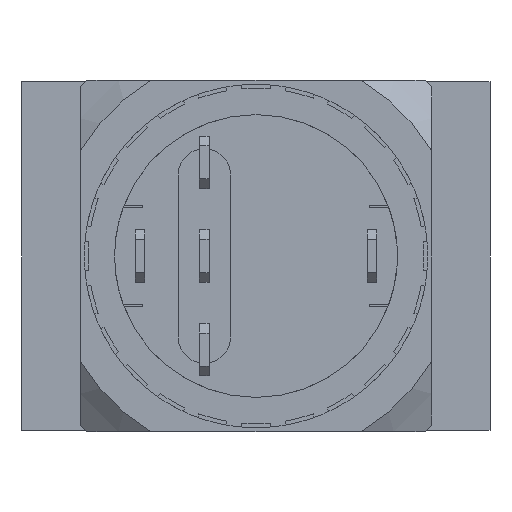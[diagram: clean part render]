
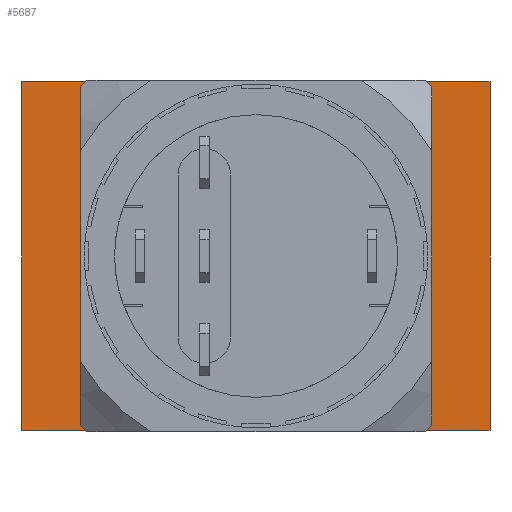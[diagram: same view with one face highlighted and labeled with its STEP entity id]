
A CAD part, front view. The second image highlights one B-rep face of the part: STEP entity #5687.
In plain terms, the highlighted planar face has unit normal (0, -1, 0).
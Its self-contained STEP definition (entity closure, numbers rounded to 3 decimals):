
#143 = CARTESIAN_POINT ( 'NONE',  ( -8.65, 18., 0. ) ) ;
#144 = CARTESIAN_POINT ( 'NONE',  ( 8.65, 18., 0. ) ) ;
#633 = CARTESIAN_POINT ( 'NONE',  ( 12., 18., 8.925 ) ) ;
#634 = CARTESIAN_POINT ( 'NONE',  ( 12., 18., -8.925 ) ) ;
#637 = CARTESIAN_POINT ( 'NONE',  ( -12., 18., -8.925 ) ) ;
#650 = CARTESIAN_POINT ( 'NONE',  ( -12., 18., 8.925 ) ) ;
#2340 = VERTEX_POINT ( 'NONE', #650 ) ;
#2353 = VERTEX_POINT ( 'NONE', #637 ) ;
#2356 = VERTEX_POINT ( 'NONE', #634 ) ;
#2357 = VERTEX_POINT ( 'NONE', #633 ) ;
#2705 = VERTEX_POINT ( 'NONE', #144 ) ;
#2706 = VERTEX_POINT ( 'NONE', #143 ) ;
#2751 = DIRECTION ( 'NONE',  ( 0., 0., -1. ) ) ;
#2752 = DIRECTION ( 'NONE',  ( 0., -1., 0. ) ) ;
#2753 = CARTESIAN_POINT ( 'NONE',  ( 0., 18., 0. ) ) ;
#2754 = PLANE ( 'NONE',  #3347 ) ;
#3053 = DIRECTION ( 'NONE',  ( 0., 1., 0. ) ) ;
#3098 = CARTESIAN_POINT ( 'NONE',  ( 0., 18., 0. ) ) ;
#3148 = DIRECTION ( 'NONE',  ( -1., 0., 0. ) ) ;
#3319 = FACE_OUTER_BOUND ( 'NONE', #6020, .T. ) ;
#3347 = AXIS2_PLACEMENT_3D ( 'NONE', #2753, #2752, #2751 ) ;
#3593 = AXIS2_PLACEMENT_3D ( 'NONE', #3098, #3053, #3148 ) ;
#3605 = VECTOR ( 'NONE', #7316, 1000. ) ;
#3783 = VECTOR ( 'NONE', #7304, 1000. ) ;
#4143 = FACE_BOUND ( 'NONE', #6021, .T. ) ;
#4207 = VECTOR ( 'NONE', #7259, 1000. ) ;
#4225 = VECTOR ( 'NONE', #7283, 1000. ) ;
#4250 = ORIENTED_EDGE ( 'NONE', *, *, #6661, .F. ) ;
#4251 = ORIENTED_EDGE ( 'NONE', *, *, #6680, .F. ) ;
#4252 = ORIENTED_EDGE ( 'NONE', *, *, #6631, .T. ) ;
#4429 = ORIENTED_EDGE ( 'NONE', *, *, #6669, .F. ) ;
#5385 = AXIS2_PLACEMENT_3D ( 'NONE', #8269, #8270, #8271 ) ;
#5687 = ADVANCED_FACE ( 'NONE', ( #4143, #3319 ), #2754, .T. ) ;
#6020 = EDGE_LOOP ( 'NONE', ( #4251, #4250, #4429, #6429 ) ) ;
#6021 = EDGE_LOOP ( 'NONE', ( #6220, #4252 ) ) ;
#6220 = ORIENTED_EDGE ( 'NONE', *, *, #6996, .T. ) ;
#6429 = ORIENTED_EDGE ( 'NONE', *, *, #6676, .F. ) ;
#6631 = EDGE_CURVE ( 'NONE', #2705, #2706, #7040, .T. ) ;
#6661 = EDGE_CURVE ( 'NONE', #2340, #2357, #7257, .T. ) ;
#6669 = EDGE_CURVE ( 'NONE', #2353, #2340, #7281, .T. ) ;
#6676 = EDGE_CURVE ( 'NONE', #2356, #2353, #7302, .T. ) ;
#6680 = EDGE_CURVE ( 'NONE', #2357, #2356, #7314, .T. ) ;
#6996 = EDGE_CURVE ( 'NONE', #2706, #2705, #7157, .T. ) ;
#7040 = CIRCLE ( 'NONE', #3593, 8.65 ) ;
#7157 = CIRCLE ( 'NONE', #5385, 8.65 ) ;
#7257 = LINE ( 'NONE', #7258, #4207 ) ;
#7258 = CARTESIAN_POINT ( 'NONE',  ( -12., 18., 8.925 ) ) ;
#7259 = DIRECTION ( 'NONE',  ( 1., 0., 0. ) ) ;
#7281 = LINE ( 'NONE', #7282, #4225 ) ;
#7282 = CARTESIAN_POINT ( 'NONE',  ( -12., 18., 8.925 ) ) ;
#7283 = DIRECTION ( 'NONE',  ( 0., 0., 1. ) ) ;
#7302 = LINE ( 'NONE', #7303, #3783 ) ;
#7303 = CARTESIAN_POINT ( 'NONE',  ( -12., 18., -8.925 ) ) ;
#7304 = DIRECTION ( 'NONE',  ( -1., 0., 0. ) ) ;
#7314 = LINE ( 'NONE', #7315, #3605 ) ;
#7315 = CARTESIAN_POINT ( 'NONE',  ( 12., 18., 8.925 ) ) ;
#7316 = DIRECTION ( 'NONE',  ( 0., 0., -1. ) ) ;
#8269 = CARTESIAN_POINT ( 'NONE',  ( 0., 18., 0. ) ) ;
#8270 = DIRECTION ( 'NONE',  ( 0., 1., 0. ) ) ;
#8271 = DIRECTION ( 'NONE',  ( -1., 0., 0. ) ) ;
